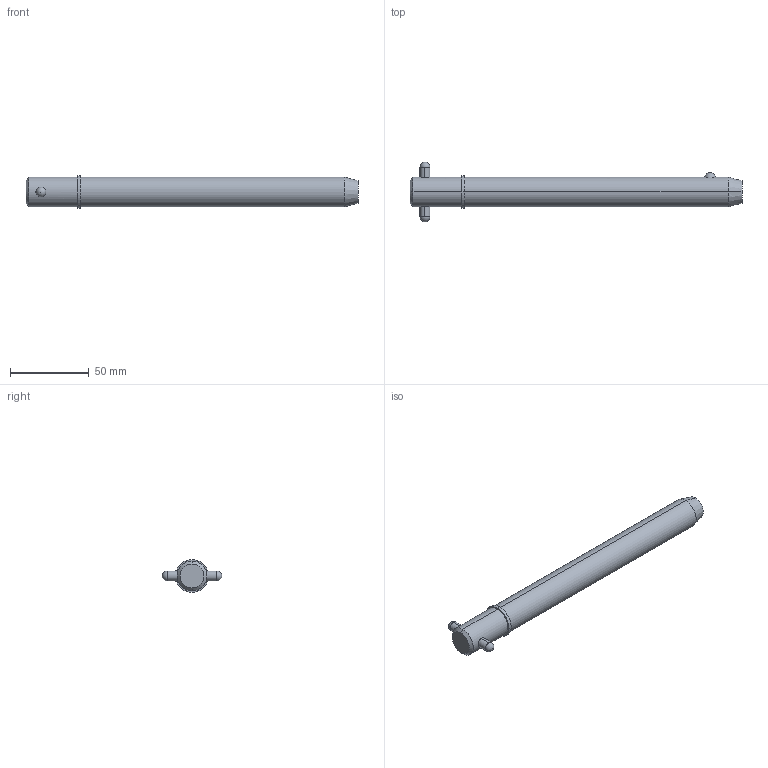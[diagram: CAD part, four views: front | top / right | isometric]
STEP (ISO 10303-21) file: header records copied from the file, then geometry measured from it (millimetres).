
FILE_DESCRIPTION (( 'STEP AP203' ), '1' );
FILE_NAME ('33018.W7560.step', '2024-11-19T17:21:17', ( '' ), ( '' ), 'SwSTEP 2.0', 'SolidWorks 2019', '' );
FILE_SCHEMA (( 'CONFIG_CONTROL_DESIGN' ));
Length unit declared in the file: millimetre
Products named in the file (3): 33018.W7560; Part1_33018.W7560; Part2_33018.W7560
Assembly tree (2 placements, depth 2):
  33018.W7560
    Part1_33018.W7560
    Part2_33018.W7560
Bounding box: 211.13 x 38.1 x 20.95 mm (x, y, z)
Volume: 60223.2 mm3; surface area: 14184 mm2
Topology: 2 solids, 2 shells, 22 faces, 47 edges, 30 vertices
Faces by surface type: cylinder 10, sphere 4, cone 4, plane 4
Entity records: 1041 total; most frequent: CARTESIAN_POINT 284, DIRECTION 110, ORIENTED_EDGE 82, AXIS2_PLACEMENT_3D 48, EDGE_CURVE 41, EDGE_LOOP 27, VERTEX_POINT 26, PERSON_AND_ORGANIZATION 26
